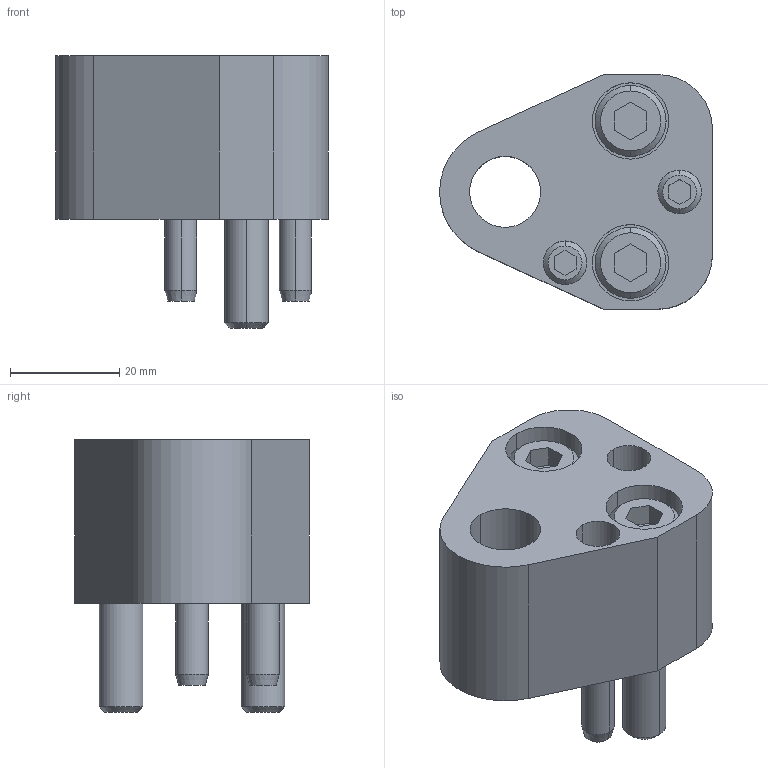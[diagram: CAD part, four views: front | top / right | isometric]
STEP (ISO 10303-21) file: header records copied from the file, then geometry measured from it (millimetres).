
FILE_DESCRIPTION(/* description */ (''),/* implementation_level */ '2;1');
FILE_NAME(/* name */ '3d_dpar13_02795_r00.stp',/* time_stamp */ '2011-01-10T14:15:54+09:00',/* author */ ('MISUMI'),/* organization */ (''),/* preprocessor_version */ 'ST-DEVELOPER v11',/* originating_system */ 'UGS - NX 5.0',/* authorisation */ '');
FILE_SCHEMA (('CONFIG_CONTROL_DESIGN'));
Length unit declared in the file: millimetre
Products named in the file (1): 3d_dpar13_02795_r00
Bounding box: 50 x 43 x 50 mm (x, y, z)
Volume: 45639.4 mm3; surface area: 17283.1 mm2
Topology: 7 solids, 7 shells, 135 faces, 292 edges, 186 vertices
Faces by surface type: plane 60, cylinder 49, cone 26
Entity records: 3816 total; most frequent: DIRECTION 684, CARTESIAN_POINT 662, ORIENTED_EDGE 584, EDGE_CURVE 292, AXIS2_PLACEMENT_3D 260, VERTEX_POINT 186, LINE 164, VECTOR 164
